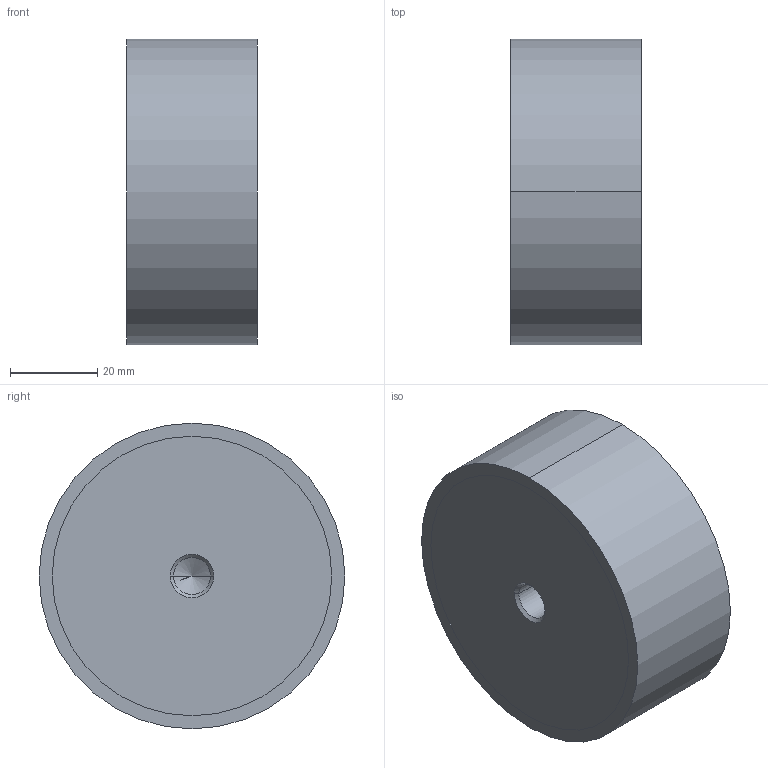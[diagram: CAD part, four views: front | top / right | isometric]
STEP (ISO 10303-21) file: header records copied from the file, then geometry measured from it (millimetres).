
FILE_DESCRIPTION (( 'STEP AP214' ), '1' );
FILE_NAME ('351-70-30-M10-EE-70.step', '2025-07-23T09:40:43', ( '' ), ( '' ), 'SwSTEP 2.0', 'SolidWorks 2022', '' );
FILE_SCHEMA (( 'AUTOMOTIVE_DESIGN' ));
Length unit declared in the file: millimetre
Products named in the file (1): 351-70-30-M10-EE-70
Bounding box: 30 x 70 x 70 mm (x, y, z)
Volume: 114014.8 mm3; surface area: 14890.4 mm2
Topology: 1 solids, 1 shells, 28 faces, 58 edges, 34 vertices
Faces by surface type: cylinder 14, cone 8, plane 6
Entity records: 844 total; most frequent: DIRECTION 144, CARTESIAN_POINT 117, ORIENTED_EDGE 108, AXIS2_PLACEMENT_3D 61, EDGE_CURVE 54, VERTEX_POINT 34, EDGE_LOOP 34, CIRCLE 32
